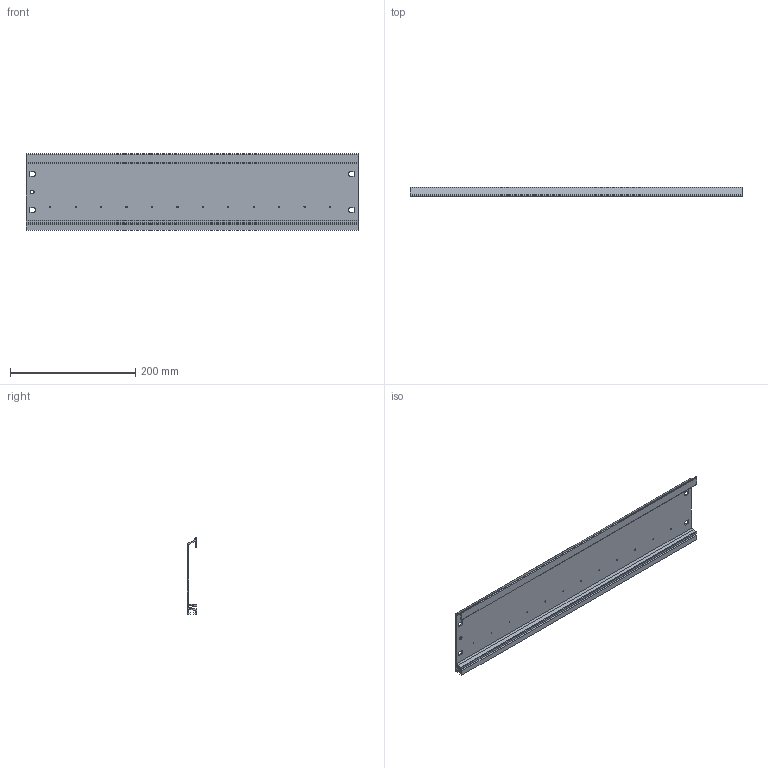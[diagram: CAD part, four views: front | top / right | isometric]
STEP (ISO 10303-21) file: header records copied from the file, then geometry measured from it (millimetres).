
FILE_DESCRIPTION((''),'2;1');
FILE_NAME('391-1AF30','2015-04-22T',('TReuther'),(''),'PRO/ENGINEER BY PARAMETRIC TECHNOLOGY CORPORATION, 2013320','PRO/ENGINEER BY PARAMETRIC TECHNOLOGY CORPORATION, 2013320','');
FILE_SCHEMA(('CONFIG_CONTROL_DESIGN'));
Length unit declared in the file: millimetre
Products named in the file (1): 391-1AF30
Bounding box: 530 x 15 x 122 mm (x, y, z)
Surface area: 175533.1 mm2 (no closed solid volume)
Topology: 0 solids, 1 shells, 36 faces, 326 edges, 278 vertices
Faces by surface type: plane 32, cylinder 4
Entity records: 3120 total; most frequent: CARTESIAN_POINT 645, DIRECTION 512, ORIENTED_EDGE 414, EDGE_CURVE 326, VERTEX_POINT 278, VECTOR 210, LINE 210, AXIS2_PLACEMENT_3D 151
